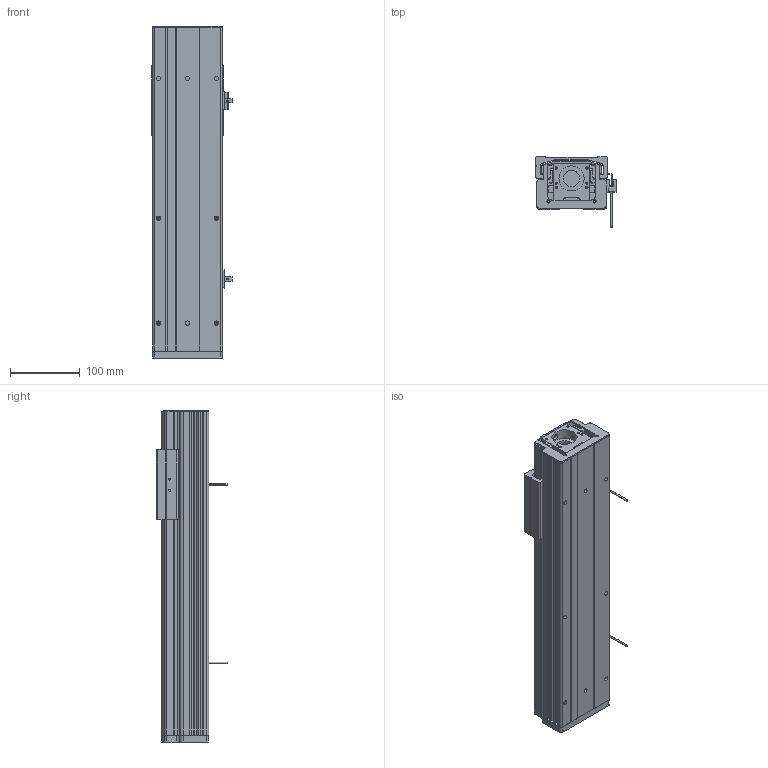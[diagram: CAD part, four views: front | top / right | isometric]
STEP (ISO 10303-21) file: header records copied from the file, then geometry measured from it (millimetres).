
FILE_DESCRIPTION (( 'STEP AP203' ), '1' );
FILE_NAME ('CTHM10-S250-O-BC.STEP', '2019-12-18T01:13:35', ( '微软用户' ), ( '微软中国' ), 'SwSTEP 2.0', 'SolidWorks 2017', '' );
FILE_SCHEMA (( 'CONFIG_CONTROL_DESIGN' ));
Length unit declared in the file: millimetre
Products named in the file (11): CTHM10-S250-O-BC; CTHM10盓傅耜; CTHM10固定侧自制轴承座; CTHM10裔啣(100); CTHM10傷裔(祥結裔啣); CTHM10綴傷裔; 覜茼え; 遣喳蝶15x12x8; CTHM10菁釱(200); EE-SX672-BR; CTHM10痄雄釱(党蜊)
Assembly tree (14 placements, depth 2):
  CTHM10-S250-O-BC
    CTHM10菁釱(200)
    CTHM10痄雄釱(党蜊)
    CTHM10盓傅耜
    CTHM10固定侧自制轴承座
    CTHM10裔啣(100)
    CTHM10傷裔(祥結裔啣)
    CTHM10綴傷裔
    覜茼え
    遣喳蝶15x12x8  x4
    EE-SX672-BR  x2
Bounding box: 114.7 x 100.2 x 475 mm (x, y, z)
Volume: 1428406 mm3; surface area: 485418.4 mm2
Topology: 14 solids, 14 shells, 930 faces, 2632 edges, 1716 vertices
Faces by surface type: cylinder 493, plane 393, cone 44
Entity records: 31407 total; most frequent: CARTESIAN_POINT 7575, DIRECTION 4766, ORIENTED_EDGE 4736, EDGE_CURVE 2368, AXIS2_PLACEMENT_3D 1737, VERTEX_POINT 1564, VECTOR 1292, LINE 1292
